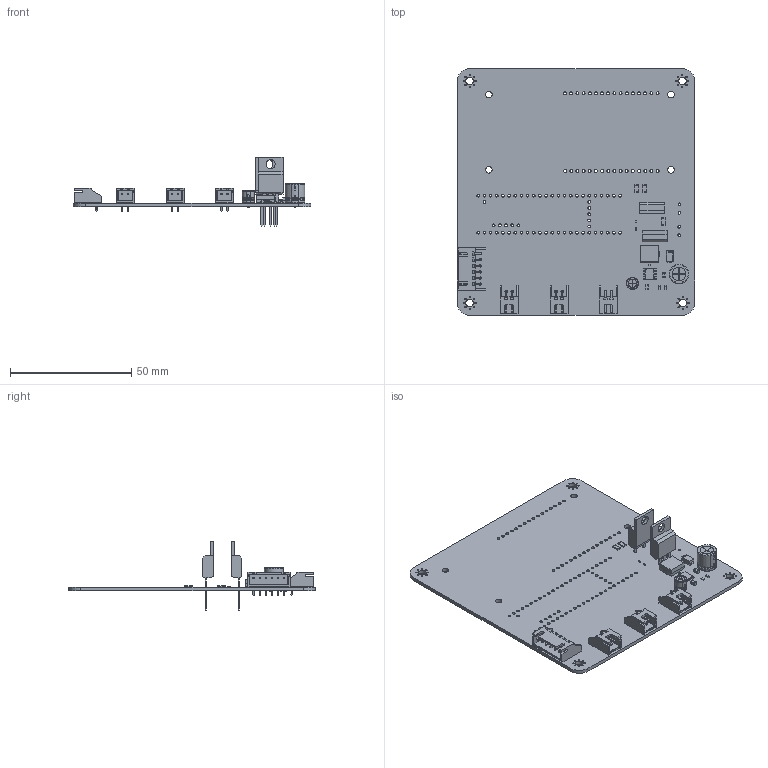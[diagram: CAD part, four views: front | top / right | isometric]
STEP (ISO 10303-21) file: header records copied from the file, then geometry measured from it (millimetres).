
FILE_DESCRIPTION(('KiCad electronic assembly'),'2;1');
FILE_NAME('PCB.step','2026-02-26T14:14:48',('Pcbnew'),('Kicad'), 'Open CASCADE STEP processor 7.8','KiCad to STEP converter','Unknown' );
FILE_SCHEMA(('AUTOMOTIVE_DESIGN { 1 0 10303 214 1 1 1 1 }'));
Length unit declared in the file: millimetre
Products named in the file (20): PCB 1; C_0805_2012Metric; CP_Radial_D8.0mm_P3.50mm; JST_XH_S2B-XH-A_1x02_P2.50mm_Horizontal; D_SMA; R_0603_1608Metric; JST_XH_S6B-XH-A_1x06_P2.50mm_Horizontal; TI_SO-PowerPAD-8; SRP7030-100M; Chamfer; FilletPin1; FilletPin2; R_1206_3216Metric; C_0402_1005Metric; Fuse_1206_3216Metric; R_0402_1005Metric; TO-220-3_Vertical; CP_Radial_D5.0mm_P2.00mm; TO-220-2_Vertical; CapstoneMk2_PCB
Assembly tree (25 placements, depth 3):
  PCB 1
    C_0805_2012Metric  x2
    CP_Radial_D8.0mm_P3.50mm
    JST_XH_S2B-XH-A_1x02_P2.50mm_Horizontal  x3
    D_SMA
    R_0603_1608Metric  x2
    JST_XH_S6B-XH-A_1x06_P2.50mm_Horizontal
    TI_SO-PowerPAD-8
    SRP7030-100M
      Chamfer
      FilletPin1
      FilletPin2
    R_1206_3216Metric  x2
    C_0402_1005Metric
    Fuse_1206_3216Metric
    R_0402_1005Metric  x2
    TO-220-3_Vertical
    CP_Radial_D5.0mm_P2.00mm
    TO-220-2_Vertical
    CapstoneMk2_PCB
Bounding box: 97.79 x 101.6 x 28.52 mm (x, y, z)
Volume: 17295.2 mm3; surface area: 25568.7 mm2
Topology: 24 solids, 26 shells, 1391 faces, 3714 edges, 2412 vertices
Faces by surface type: plane 957, cylinder 363, bspline 56, revolution 11, torus 4
Full cylindrical faces by diameter (mm): 0.2 x1, 0.5 x36, 0.8 x4, 0.95 x6, 1 x6, 1.1 x9, 1.11 x59, 1.2 x32, 2.7 x4, 3.2 x4, 3.735 x2
Entity records: 41737 total; most frequent: CARTESIAN_POINT 7637, ORIENTED_EDGE 5728, DIRECTION 5499, EDGE_CURVE 2864, LINE 2092, VECTOR 2092, VERTEX_POINT 1856, AXIS2_PLACEMENT_3D 1698
